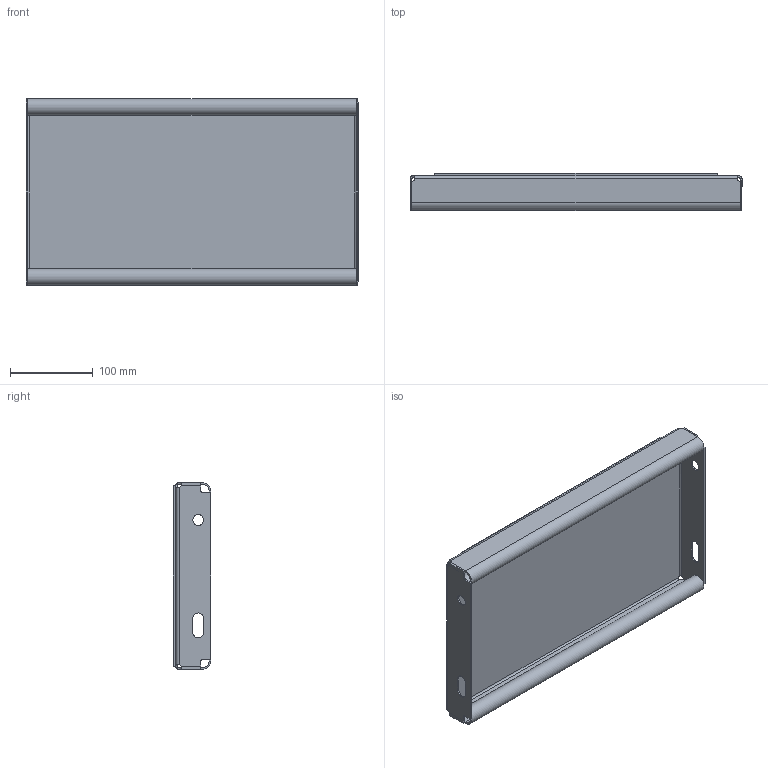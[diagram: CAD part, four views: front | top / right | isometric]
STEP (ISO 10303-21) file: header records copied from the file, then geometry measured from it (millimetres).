
FILE_DESCRIPTION (( 'STEP AP214' ), '1' );
FILE_NAME ('OPTIMO-Tread-Achil-O2-400x225x45x2-st240-F100210100_plain.STEP', '2021-03-16T07:56:28', ( '' ), ( '' ), 'SwSTEP 2.0', 'SolidWorks 2021', '' );
FILE_SCHEMA (( 'AUTOMOTIVE_DESIGN' ));
Length unit declared in the file: millimetre
Products named in the file (1): OPTIMO-Tread-Achil-O2-400x225x45x2-st240-F100210100_plain
Bounding box: 400 x 45 x 225 mm (x, y, z)
Volume: 555146.8 mm3; surface area: 341297.2 mm2
Topology: 1 solids, 1 shells, 264 faces, 672 edges, 428 vertices
Faces by surface type: plane 185, cylinder 40, bspline 39
Entity records: 10316 total; most frequent: CARTESIAN_POINT 4156, ORIENTED_EDGE 1344, DIRECTION 1094, EDGE_CURVE 672, LINE 514, VECTOR 514, VERTEX_POINT 428, EDGE_LOOP 290
